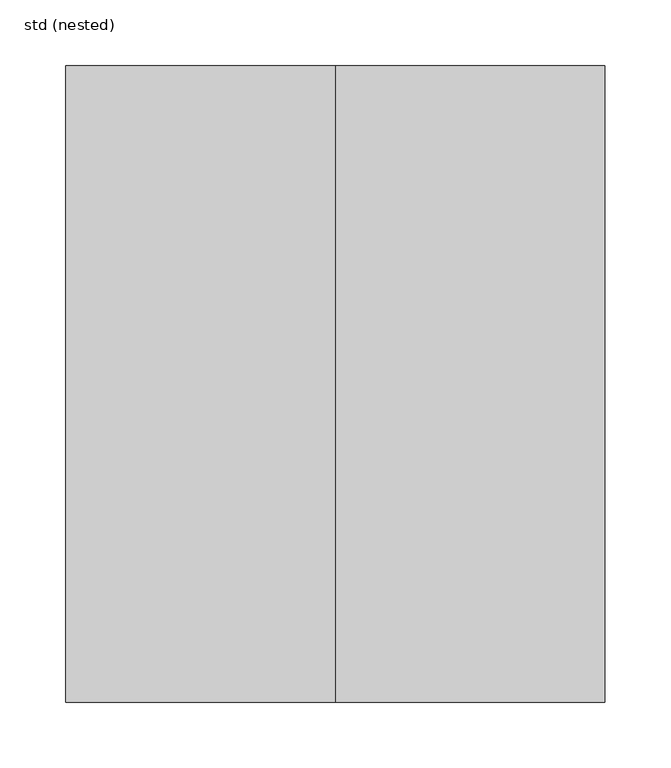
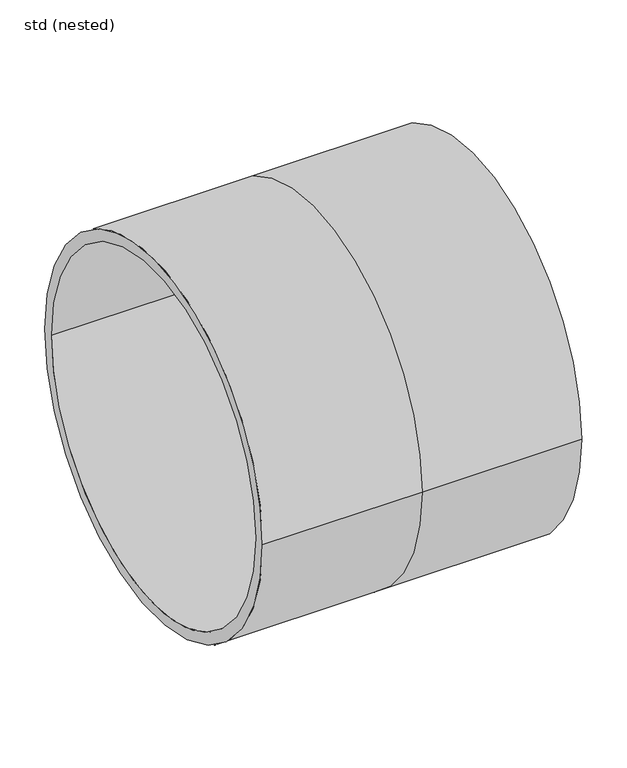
"""IFC4 building model written with IfcOpenShell, lengths in millimetres: pipe fitting geometry, NLRS_52_PIF_WPB_Ultra Kyma steekmof 2MV SH_Dyka : std (nested)."""

from ifc_helpers import new_model, si_unit, frame, origin, place, context, project, spatial, polyline, circle_curve, source, transform, mapped, element, save
from ifc_brep_helpers import plane_surface, cylinder_surface, revolved_surface, advanced_brep


def std_nested_ccdd82c8(model_context):
    return source(origin(), model_context, "Body", "AdvancedBrep", [
        advanced_brep(
        [(0.0, -242.0, 0.0), (-205.0, -242.0, 0.0), (-205.0, 242.0, 0.0), (0.0, 242.0, 0.0), (-205.0, 227.0, 0.0), (-205.0, -227.0, 0.0), (0.0, -227.0, 0.0), (0.0, 227.0, 0.0), (205.0, 242.0, 0.0), (205.0, -242.0, 0.0), (205.0, -227.0, 0.0), (205.0, 227.0, 0.0)],
        [
            (0, 1),
            (1, 2, circle_curve(frame((-205.0, 0.0, 0.0), z_axis=(1.0, 0.0, 0.0), x_axis=(0.0, -1.0, 0.0)), 242.0)),
            (2, 3),
            (3, 0, circle_curve(frame((0.0, 0.0, 0.0), z_axis=(-1.0, 0.0, 0.0), x_axis=(0.0, -1.0, 0.0)), 242.0)),
            (4, 5, circle_curve(frame((-205.0, 0.0, 0.0), z_axis=(-1.0, 0.0, 0.0), x_axis=(0.0, -1.0, 0.0)), 227.0)),
            (5, 6),
            (6, 7, circle_curve(frame((0.0, 0.0, 0.0), z_axis=(1.0, 0.0, 0.0), x_axis=(0.0, -1.0, 0.0)), 227.0)),
            (7, 4),
            (0, 3, circle_curve(frame((0.0, 0.0, 0.0), z_axis=(-1.0, 0.0, 0.0), x_axis=(0.0, 1.0, 0.0)), 242.0)),
            (2, 1, circle_curve(frame((-205.0, 0.0, 0.0), z_axis=(1.0, 0.0, 0.0), x_axis=(0.0, 1.0, 0.0)), 242.0)),
            (4, 5, circle_curve(frame((-205.0, 0.0, 0.0), z_axis=(1.0, 0.0, 0.0), x_axis=(0.0, 1.0, 0.0)), 227.0)),
            (7, 6, circle_curve(frame((0.0, 0.0, 0.0), z_axis=(1.0, 0.0, 0.0), x_axis=(0.0, 1.0, 0.0)), 227.0)),
            (8, 9, circle_curve(frame((205.0, 0.0, 0.0), z_axis=(-1.0, 0.0, 0.0), x_axis=(0.0, -1.0, 0.0)), 242.0)),
            (9, 0),
            (3, 8),
            (6, 10),
            (10, 11, circle_curve(frame((205.0, 0.0, 0.0), z_axis=(1.0, 0.0, 0.0), x_axis=(0.0, -1.0, 0.0)), 227.0)),
            (11, 7),
            (9, 8, circle_curve(frame((205.0, 0.0, 0.0), z_axis=(-1.0, 0.0, 0.0), x_axis=(0.0, 1.0, 0.0)), 242.0)),
            (10, 11, circle_curve(frame((205.0, 0.0, 0.0), z_axis=(-1.0, 0.0, 0.0), x_axis=(0.0, 1.0, 0.0)), 227.0)),
        ],
        [
            cylinder_surface(frame((0.0, 0.0, 0.0), z_axis=(1.0, 0.0, 0.0), x_axis=(0.0, -1.0, 0.0)), 242.0),
            revolved_surface(polyline([(0.0, -227.0, 0.0), (-205.0, -227.0, 0.0)]), (0.0, 0.0, 0.0), (1.0, 0.0, 0.0)),
            cylinder_surface(frame((0.0, 0.0, 0.0), z_axis=(1.0, 0.0, 0.0), x_axis=(0.0, 1.0, 0.0)), 242.0),
            plane_surface(frame((-205.0, 0.0, 0.0), z_axis=(-1.0, 0.0, 0.0), x_axis=(0.0, 1.0, 0.0))),
            revolved_surface(polyline([(0.0, 227.0, 0.0), (-205.0, 227.0, 0.0)]), (0.0, 0.0, 0.0), (1.0, 0.0, 0.0)),
            revolved_surface(polyline([(205.0, -227.0, 0.0), (0.0, -227.0, 0.0)]), (0.0, 0.0, 0.0), (1.0, 0.0, 0.0)),
            plane_surface(frame((205.0, 0.0, 0.0), z_axis=(1.0, 0.0, 0.0), x_axis=(0.0, 1.0, 0.0))),
            revolved_surface(polyline([(205.0, 227.0, 0.0), (0.0, 227.0, 0.0)]), (0.0, 0.0, 0.0), (1.0, 0.0, 0.0)),
        ],
        [
            (0, [[1, 2, 3, 4]]),
            (1, [[5, 6, 7, 8]]),
            (2, [[-1, 9, -3, 10]]),
            (3, [[-2, -10], [-5, 11]]),
            (4, [[-6, -11, -8, 12]]),
            (0, [[13, 14, -4, 15]]),
            (5, [[16, 17, 18, -7]]),
            (2, [[-14, 19, -15, -9]]),
            (6, [[-13, -19], [-17, 20]]),
            (7, [[-16, -12, -18, -20]]),
        ],
    ),
    ])


if __name__ == "__main__":
    model = new_model("IFC4")
    model_context = context("Model", 3, world=origin())
    ifc_project = project(units=[si_unit("LENGTHUNIT", "METRE", prefix="MILLI")], contexts=[model_context])
    site = spatial("IfcSite", under=ifc_project)
    building = spatial("IfcBuilding", under=site)
    placement = place(None, origin())
    std_nested_shape = std_nested_ccdd82c8(model_context)
    element("IfcPipeFitting", 1, ObjectType="NLRS_52_PIF_WPB_Ultra Kyma steekmof 2MV SH_Dyka : std (nested)", at=placement, inside=building, context=model_context, shape_type="MappedRepresentation", body=[
        mapped(std_nested_shape, transform((0.0, 0.0, 0.0), x_axis=(1.0, 0.0, 0.0), y_axis=(0.0, 1.0, 0.0), z_axis=(0.0, 0.0, 1.0))),
    ])
    save(model, "model.ifc")
